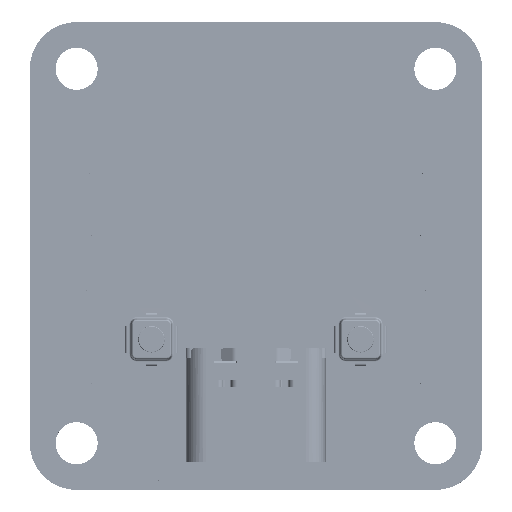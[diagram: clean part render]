
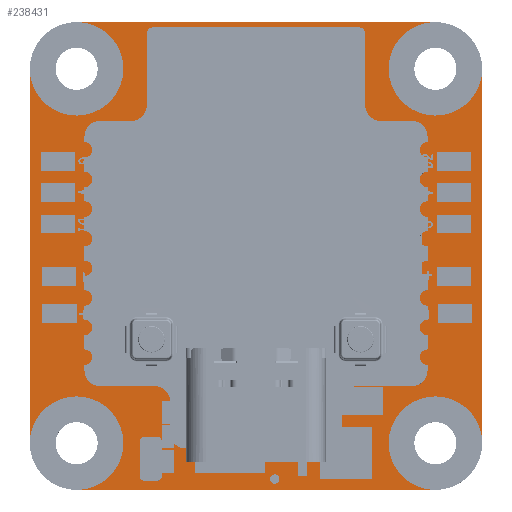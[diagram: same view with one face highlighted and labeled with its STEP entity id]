
A CAD part, top view. The second image highlights one B-rep face of the part: STEP entity #238431.
In plain terms, the highlighted planar face has unit normal (0, 0, 1).
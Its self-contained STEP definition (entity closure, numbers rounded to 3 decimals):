
#237826=CARTESIAN_POINT('',(-11.5,12.,
1.605));
#237827=DIRECTION('',(0.,0.,-1.));
#237828=DIRECTION('',(1.,0.,0.));
#237829=AXIS2_PLACEMENT_3D('',#237826,#237827,#237828);
#237831=CARTESIAN_POINT('',(-11.5,12.,
1.605));
#237832=DIRECTION('',(0.,0.,-1.));
#237833=DIRECTION('',(0.,1.,0.));
#237834=AXIS2_PLACEMENT_3D('',#237831,#237832,#237833);
#237836=CARTESIAN_POINT('',(11.5,12.,
1.605));
#237837=DIRECTION('',(0.,0.,-1.));
#237838=DIRECTION('',(-1.,0.,0.));
#237839=AXIS2_PLACEMENT_3D('',#237836,#237837,#237838);
#237841=CARTESIAN_POINT('',(11.5,12.,1.605));
#237842=DIRECTION('',(0.,0.,-1.));
#237843=DIRECTION('',(1.,0.,0.));
#237844=AXIS2_PLACEMENT_3D('',#237841,#237842,#237843);
#237846=CARTESIAN_POINT('',(11.5,-12.,
1.605));
#237847=DIRECTION('',(0.,0.,-1.));
#237848=DIRECTION('',(-1.,0.,0.));
#237849=AXIS2_PLACEMENT_3D('',#237846,#237847,#237848);
#237851=CARTESIAN_POINT('',(11.5,-12.,1.605));
#237852=DIRECTION('',(0.,0.,-1.));
#237853=DIRECTION('',(0.,-1.,0.));
#237854=AXIS2_PLACEMENT_3D('',#237851,#237852,#237853);
#237856=CARTESIAN_POINT('',(-11.5,-12.,1.605));
#237857=DIRECTION('',(0.,0.,-1.));
#237858=DIRECTION('',(1.,0.,0.));
#237859=AXIS2_PLACEMENT_3D('',#237856,#237857,#237858);
#237861=CARTESIAN_POINT('',(-11.5,-12.,
1.605));
#237862=DIRECTION('',(0.,0.,-1.));
#237863=DIRECTION('',(0.,1.,0.));
#237864=AXIS2_PLACEMENT_3D('',#237861,#237862,#237863);
#237866=CARTESIAN_POINT('',(-11.5,-12.,
1.605));
#237867=DIRECTION('',(0.,0.,-1.));
#237868=DIRECTION('',(-1.,0.,0.));
#237869=AXIS2_PLACEMENT_3D('',#237866,#237867,#237868);
#237871=DIRECTION('',(0.,-1.,0.));
#237872=VECTOR('',#237871,24.);
#237873=CARTESIAN_POINT('',(-14.5,12.,1.605));
#237874=LINE('',#237873,#237872);
#238012=DIRECTION('',(1.,0.,0.));
#238013=VECTOR('',#238012,23.);
#238014=CARTESIAN_POINT('',(-11.5,15.,1.605));
#238015=LINE('',#238014,#238013);
#238076=DIRECTION('',(-1.,0.,0.));
#238077=VECTOR('',#238076,23.);
#238078=CARTESIAN_POINT('',(11.5,-15.,
1.605));
#238079=LINE('',#238078,#238077);
#238156=DIRECTION('',(0.,-1.,0.));
#238157=VECTOR('',#238156,24.);
#238158=CARTESIAN_POINT('',(14.5,12.,
1.605));
#238159=LINE('',#238158,#238157);
#238210=CARTESIAN_POINT('',(-14.5,12.,1.605));
#238211=VERTEX_POINT('',#238210);
#238216=CARTESIAN_POINT('',(-11.5,15.,1.605));
#238217=VERTEX_POINT('',#238216);
#238218=CARTESIAN_POINT('',(-8.5,12.,
1.605));
#238219=VERTEX_POINT('',#238218);
#238224=CARTESIAN_POINT('',(-14.5,-12.,1.605));
#238225=VERTEX_POINT('',#238224);
#238226=CARTESIAN_POINT('',(11.5,15.,
1.605));
#238227=VERTEX_POINT('',#238226);
#238228=CARTESIAN_POINT('',(8.5,12.,
1.605));
#238229=VERTEX_POINT('',#238228);
#238230=CARTESIAN_POINT('',(14.5,12.,
1.605));
#238231=VERTEX_POINT('',#238230);
#238232=CARTESIAN_POINT('',(14.5,-12.,
1.605));
#238233=VERTEX_POINT('',#238232);
#238234=CARTESIAN_POINT('',(8.5,-12.,
1.605));
#238235=VERTEX_POINT('',#238234);
#238236=CARTESIAN_POINT('',(11.5,-15.,
1.605));
#238237=VERTEX_POINT('',#238236);
#238238=CARTESIAN_POINT('',(-11.5,-15.,
1.605));
#238239=VERTEX_POINT('',#238238);
#238240=CARTESIAN_POINT('',(-8.5,-12.,
1.605));
#238241=VERTEX_POINT('',#238240);
#238242=CARTESIAN_POINT('',(-11.5,-9.,
1.605));
#238243=VERTEX_POINT('',#238242);
#238399=CARTESIAN_POINT('',(0.,0.,1.605));
#238400=DIRECTION('',(0.,0.,1.));
#238401=DIRECTION('',(1.,0.,0.));
#238402=AXIS2_PLACEMENT_3D('',#238399,#238400,#238401);
#238403=PLANE('',#238402);
#238405=ORIENTED_EDGE('',*,*,#238404,.F.);
#238407=ORIENTED_EDGE('',*,*,#238406,.F.);
#238409=ORIENTED_EDGE('',*,*,#238408,.T.);
#238410=ORIENTED_EDGE('',*,*,#238378,.F.);
#238412=ORIENTED_EDGE('',*,*,#238411,.F.);
#238414=ORIENTED_EDGE('',*,*,#238413,.T.);
#238416=ORIENTED_EDGE('',*,*,#238415,.F.);
#238418=ORIENTED_EDGE('',*,*,#238417,.F.);
#238420=ORIENTED_EDGE('',*,*,#238419,.T.);
#238422=ORIENTED_EDGE('',*,*,#238421,.F.);
#238424=ORIENTED_EDGE('',*,*,#238423,.F.);
#238426=ORIENTED_EDGE('',*,*,#238425,.F.);
#238428=ORIENTED_EDGE('',*,*,#238427,.F.);
#238429=EDGE_LOOP('',(#238405,#238407,#238409,#238410,#238412,#238414,#238416,
#238418,#238420,#238422,#238424,#238426,#238428));
#238430=FACE_OUTER_BOUND('',#238429,.F.);
#238431=ADVANCED_FACE('',(#238430),#238403,.T.);
#237830=CIRCLE('',#237829,3.);
#237835=CIRCLE('',#237834,3.);
#237840=CIRCLE('',#237839,3.);
#237845=CIRCLE('',#237844,3.);
#237850=CIRCLE('',#237849,3.);
#237855=CIRCLE('',#237854,3.);
#237860=CIRCLE('',#237859,3.);
#237865=CIRCLE('',#237864,3.);
#237870=CIRCLE('',#237869,3.);
#238378=EDGE_CURVE('',#238229,#238227,#237840,.T.);
#238404=EDGE_CURVE('',#238219,#238211,#237830,.T.);
#238406=EDGE_CURVE('',#238217,#238219,#237835,.T.);
#238408=EDGE_CURVE('',#238217,#238227,#238015,.T.);
#238411=EDGE_CURVE('',#238231,#238229,#237845,.T.);
#238413=EDGE_CURVE('',#238231,#238233,#238159,.T.);
#238415=EDGE_CURVE('',#238235,#238233,#237850,.T.);
#238417=EDGE_CURVE('',#238237,#238235,#237855,.T.);
#238419=EDGE_CURVE('',#238237,#238239,#238079,.T.);
#238421=EDGE_CURVE('',#238241,#238239,#237860,.T.);
#238423=EDGE_CURVE('',#238243,#238241,#237865,.T.);
#238425=EDGE_CURVE('',#238225,#238243,#237870,.T.);
#238427=EDGE_CURVE('',#238211,#238225,#237874,.T.);
